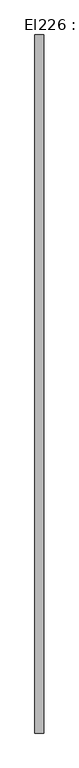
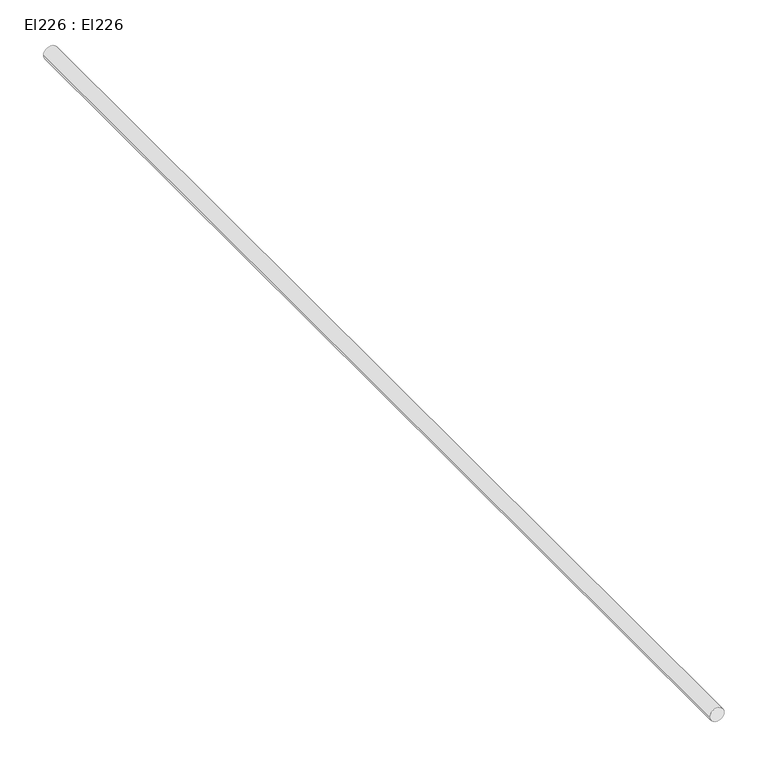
"""IFC4 building model written with IfcOpenShell, lengths in millimetres: cable carrier segment geometry, El226 : El226."""

from ifc_helpers import new_model, si_unit, point, frame, frame_2d, origin, place, context, project, spatial, circle_curve, trimmed, segment, composite_curve, outline, extrude, source, transform, mapped, element, save


def el226_el226_47256083(model_context):
    return source(origin(), model_context, "Body", "SweptSolid", [
        extrude(outline(composite_curve([segment(trimmed(circle_curve(frame_2d((2950.0, 9600.0)), 9.5), [point((2950.0, 9590.5))], [point((2950.0, 9609.5))], False, "CARTESIAN"), True, "CONTINUOUS"), segment(trimmed(circle_curve(frame_2d((2950.0, 9600.0)), 9.5), [point((2950.0, 9609.5))], [point((2950.0, 9590.5))], False, "CARTESIAN"), True, "CONTINUOUS")], self_intersect=False)), frame((0.0, 23933.793, 0.0), z_axis=(0.0, 1.0, 0.0), x_axis=(0.0, 0.0, 1.0)), (0.0, 0.0, 1.0), 1525.01),
    ])


if __name__ == "__main__":
    model = new_model("IFC4")
    model_context = context("Model", 3, world=origin())
    ifc_project = project(units=[si_unit("LENGTHUNIT", "METRE", prefix="MILLI")], contexts=[model_context])
    site = spatial("IfcSite", under=ifc_project)
    building = spatial("IfcBuilding", under=site)
    placement = place(None, origin())
    el226_el226_shape = el226_el226_47256083(model_context)
    element("IfcCableCarrierSegment", 1, ObjectType="El226 : El226", at=placement, inside=building, context=model_context, shape_type="MappedRepresentation", body=[
        mapped(el226_el226_shape, transform((0.0, 0.0, 0.0), x_axis=(1.0, 0.0, 0.0), y_axis=(0.0, 1.0, 0.0), z_axis=(0.0, 0.0, 1.0))),
    ])
    save(model, "model.ifc")
